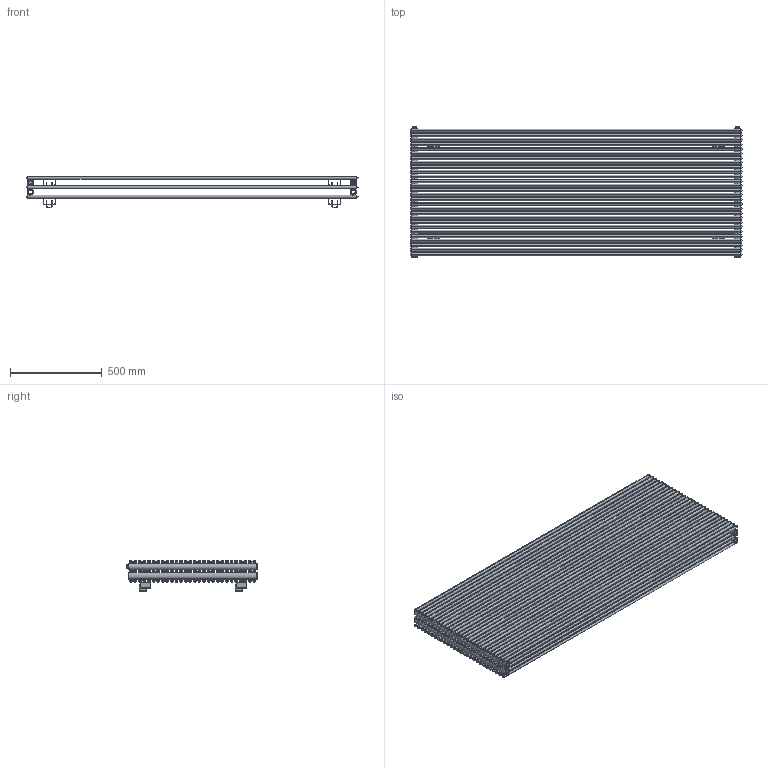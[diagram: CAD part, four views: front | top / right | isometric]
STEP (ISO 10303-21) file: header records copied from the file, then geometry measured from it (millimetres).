
FILE_DESCRIPTION (( 'STEP AP203' ), '1' );
FILE_NAME ('N28S1810.STEP', '2026-03-06T13:30:16', ( '' ), ( '' ), 'SwSTEP 2.0', 'SolidWorks 2025', '' );
FILE_SCHEMA (( 'CONFIG_CONTROL_DESIGN' ));
Length unit declared in the file: millimetre
Products named in the file (8): ZANCA-FISSAGGIO; TRAVERSINO TONDO 16 [Con configurazioni]_1810; tappo_sx.prt; SUPPORTO; N28S1810; COLLETTORE INT 25 [Con configurazioni]_703; SUPPORTO A SALDARE_A; tappo_sfiato.prt
Assembly tree (128 placements, depth 3):
  N28S1810
    TRAVERSINO TONDO 16 [Con configurazioni]_1810  x112
    COLLETTORE INT 25 [Con configurazioni]_703  x4
    tappo_sfiato.prt
    tappo_sx.prt
    SUPPORTO A SALDARE_A  x8
      ZANCA-FISSAGGIO
      SUPPORTO
Bounding box: 1810 x 709 x 169.5 mm (x, y, z)
Volume: 14421927 mm3; surface area: 19211302.3 mm2
Topology: 132 solids, 136 shells, 2669 faces, 8452 edges, 4725 vertices
Faces by surface type: cylinder 1284, sphere 896, plane 414, bspline 49, torus 24, cone 2
Entity records: 26138 total; most frequent: CARTESIAN_POINT 14849, ORIENTED_EDGE 1714, DIRECTION 1169, EDGE_CURVE 861, VERTEX_POINT 523, B_SPLINE_CURVE_WITH_KNOTS 523, AXIS2_PLACEMENT_3D 454, EDGE_LOOP 313
